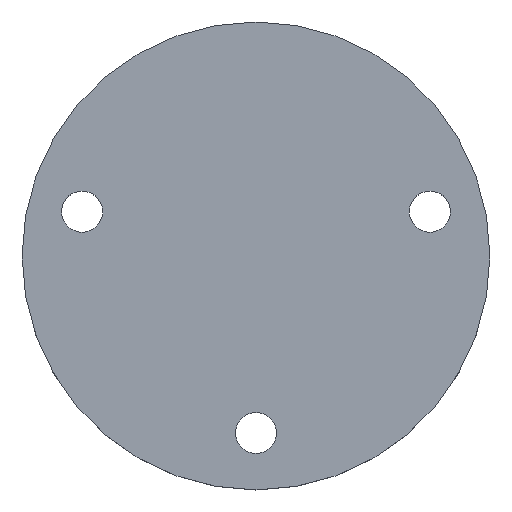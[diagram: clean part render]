
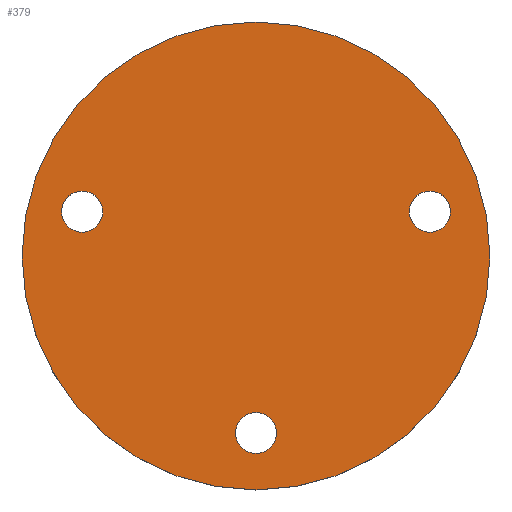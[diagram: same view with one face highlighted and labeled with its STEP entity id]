
A CAD part, top view. The second image highlights one B-rep face of the part: STEP entity #379.
In plain terms, the highlighted planar face has unit normal (0, 0, 1).
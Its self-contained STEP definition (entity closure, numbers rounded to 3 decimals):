
#2 = VERTEX_POINT ( 'NONE', #36 ) ;
#6 = EDGE_CURVE ( 'NONE', #364, #344, #40, .T. ) ;
#7 = EDGE_CURVE ( 'NONE', #389, #2, #53, .T. ) ;
#9 = EDGE_CURVE ( 'NONE', #344, #364, #74, .T. ) ;
#14 = EDGE_CURVE ( 'NONE', #385, #377, #84, .T. ) ;
#15 = EDGE_LOOP ( 'NONE', ( #371, #41 ) ) ;
#36 = CARTESIAN_POINT ( 'NONE',  ( -37., 0., 10. ) ) ;
#38 = CARTESIAN_POINT ( 'NONE',  ( 37., 0., 10. ) ) ;
#39 = CARTESIAN_POINT ( 'NONE',  ( 30.75, 7., 10. ) ) ;
#40 = CIRCLE ( 'NONE', #43, 3.25 ) ;
#41 = ORIENTED_EDGE ( 'NONE', *, *, #388, .T. ) ;
#43 = AXIS2_PLACEMENT_3D ( 'NONE', #44, #45, #46 ) ;
#44 = CARTESIAN_POINT ( 'NONE',  ( 0., -28., 10. ) ) ;
#45 = DIRECTION ( 'NONE',  ( 0., 0., -1. ) ) ;
#46 = DIRECTION ( 'NONE',  ( 1., 0., 0. ) ) ;
#52 = CARTESIAN_POINT ( 'NONE',  ( 3.25, -28., 10. ) ) ;
#53 = CIRCLE ( 'NONE', #54, 37. ) ;
#54 = AXIS2_PLACEMENT_3D ( 'NONE', #55, #56, #57 ) ;
#55 = CARTESIAN_POINT ( 'NONE',  ( 0., 0., 10. ) ) ;
#56 = DIRECTION ( 'NONE',  ( 0., 0., 1. ) ) ;
#57 = DIRECTION ( 'NONE',  ( 1., 0., 0. ) ) ;
#69 = CIRCLE ( 'NONE', #70, 3.25 ) ;
#70 = AXIS2_PLACEMENT_3D ( 'NONE', #71, #72, #73 ) ;
#71 = CARTESIAN_POINT ( 'NONE',  ( 27.5, 7., 10. ) ) ;
#72 = DIRECTION ( 'NONE',  ( 0., 0., -1. ) ) ;
#73 = DIRECTION ( 'NONE',  ( 1., 0., 0. ) ) ;
#74 = CIRCLE ( 'NONE', #75, 3.25 ) ;
#75 = AXIS2_PLACEMENT_3D ( 'NONE', #76, #78, #79 ) ;
#76 = CARTESIAN_POINT ( 'NONE',  ( 0., -28., 10. ) ) ;
#78 = DIRECTION ( 'NONE',  ( 0., 0., -1. ) ) ;
#79 = DIRECTION ( 'NONE',  ( 1., 0., 0. ) ) ;
#84 = CIRCLE ( 'NONE', #85, 3.25 ) ;
#85 = AXIS2_PLACEMENT_3D ( 'NONE', #86, #87, #88 ) ;
#86 = CARTESIAN_POINT ( 'NONE',  ( -27.5, 7., 10. ) ) ;
#87 = DIRECTION ( 'NONE',  ( 0., 0., -1. ) ) ;
#88 = DIRECTION ( 'NONE',  ( 1., 0., 0. ) ) ;
#89 = CIRCLE ( 'NONE', #90, 37. ) ;
#90 = AXIS2_PLACEMENT_3D ( 'NONE', #91, #92, #93 ) ;
#91 = CARTESIAN_POINT ( 'NONE',  ( 0., 0., 10. ) ) ;
#92 = DIRECTION ( 'NONE',  ( 0., 0., 1. ) ) ;
#93 = DIRECTION ( 'NONE',  ( 1., 0., 0. ) ) ;
#97 = ORIENTED_EDGE ( 'NONE', *, *, #357, .T. ) ;
#126 = CIRCLE ( 'NONE', #127, 3.25 ) ;
#127 = AXIS2_PLACEMENT_3D ( 'NONE', #128, #129, #130 ) ;
#128 = CARTESIAN_POINT ( 'NONE',  ( 27.5, 7., 10. ) ) ;
#129 = DIRECTION ( 'NONE',  ( 0., 0., -1. ) ) ;
#130 = DIRECTION ( 'NONE',  ( 1., 0., 0. ) ) ;
#133 = ORIENTED_EDGE ( 'NONE', *, *, #6, .T. ) ;
#142 = CARTESIAN_POINT ( 'NONE',  ( -3.25, -28., 10. ) ) ;
#153 = EDGE_LOOP ( 'NONE', ( #365, #133 ) ) ;
#173 = ORIENTED_EDGE ( 'NONE', *, *, #7, .T. ) ;
#205 = CARTESIAN_POINT ( 'NONE',  ( -30.75, 7., 10. ) ) ;
#207 = FACE_BOUND ( 'NONE', #15, .T. ) ;
#210 = FACE_BOUND ( 'NONE', #362, .T. ) ;
#211 = FACE_BOUND ( 'NONE', #153, .T. ) ;
#212 = FACE_OUTER_BOUND ( 'NONE', #368, .T. ) ;
#213 = PLANE ( 'NONE',  #214 ) ;
#214 = AXIS2_PLACEMENT_3D ( 'NONE', #215, #216, #217 ) ;
#215 = CARTESIAN_POINT ( 'NONE',  ( -38.48, -38.48, 10. ) ) ;
#216 = DIRECTION ( 'NONE',  ( 0., 0., 1. ) ) ;
#217 = DIRECTION ( 'NONE',  ( 1., 0., 0. ) ) ;
#232 = CARTESIAN_POINT ( 'NONE',  ( -24.25, 7., 10. ) ) ;
#239 = CARTESIAN_POINT ( 'NONE',  ( 24.25, 7., 10. ) ) ;
#240 = CIRCLE ( 'NONE', #241, 3.25 ) ;
#241 = AXIS2_PLACEMENT_3D ( 'NONE', #243, #244, #245 ) ;
#243 = CARTESIAN_POINT ( 'NONE',  ( -27.5, 7., 10. ) ) ;
#244 = DIRECTION ( 'NONE',  ( 0., 0., -1. ) ) ;
#245 = DIRECTION ( 'NONE',  ( 1., 0., 0. ) ) ;
#255 = VERTEX_POINT ( 'NONE', #239 ) ;
#328 = VERTEX_POINT ( 'NONE', #39 ) ;
#344 = VERTEX_POINT ( 'NONE', #52 ) ;
#346 = EDGE_CURVE ( 'NONE', #255, #328, #69, .T. ) ;
#349 = EDGE_CURVE ( 'NONE', #2, #389, #89, .T. ) ;
#357 = EDGE_CURVE ( 'NONE', #328, #255, #126, .T. ) ;
#362 = EDGE_LOOP ( 'NONE', ( #97, #378 ) ) ;
#364 = VERTEX_POINT ( 'NONE', #142 ) ;
#365 = ORIENTED_EDGE ( 'NONE', *, *, #9, .T. ) ;
#368 = EDGE_LOOP ( 'NONE', ( #173, #386 ) ) ;
#371 = ORIENTED_EDGE ( 'NONE', *, *, #14, .T. ) ;
#377 = VERTEX_POINT ( 'NONE', #205 ) ;
#378 = ORIENTED_EDGE ( 'NONE', *, *, #346, .T. ) ;
#379 = ADVANCED_FACE ( 'NONE', ( #207, #210, #211, #212 ), #213, .T. ) ;
#385 = VERTEX_POINT ( 'NONE', #232 ) ;
#386 = ORIENTED_EDGE ( 'NONE', *, *, #349, .T. ) ;
#388 = EDGE_CURVE ( 'NONE', #377, #385, #240, .T. ) ;
#389 = VERTEX_POINT ( 'NONE', #38 ) ;
